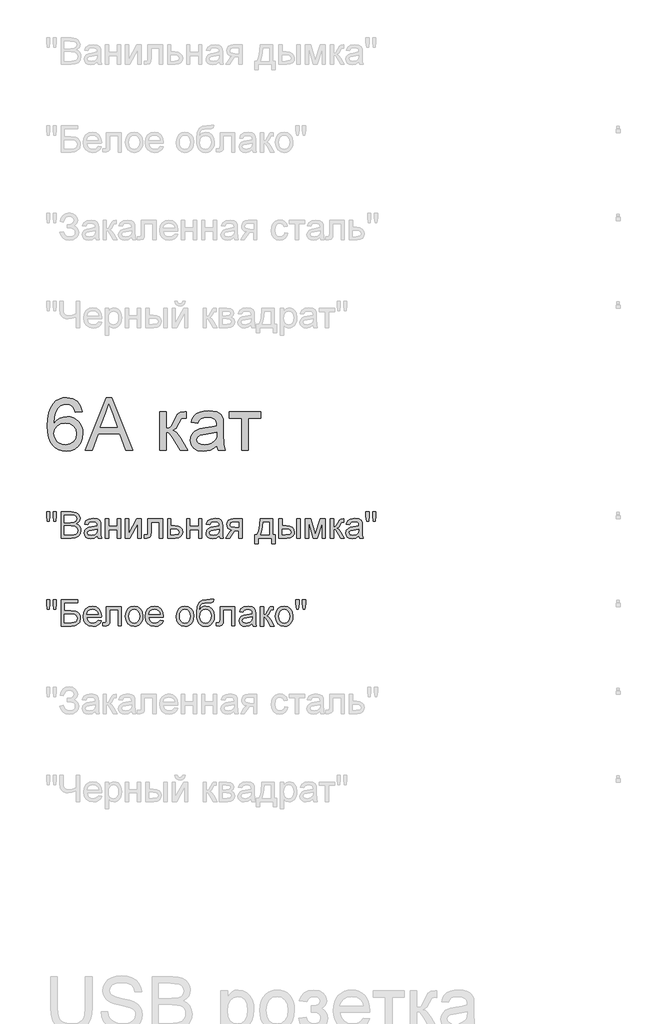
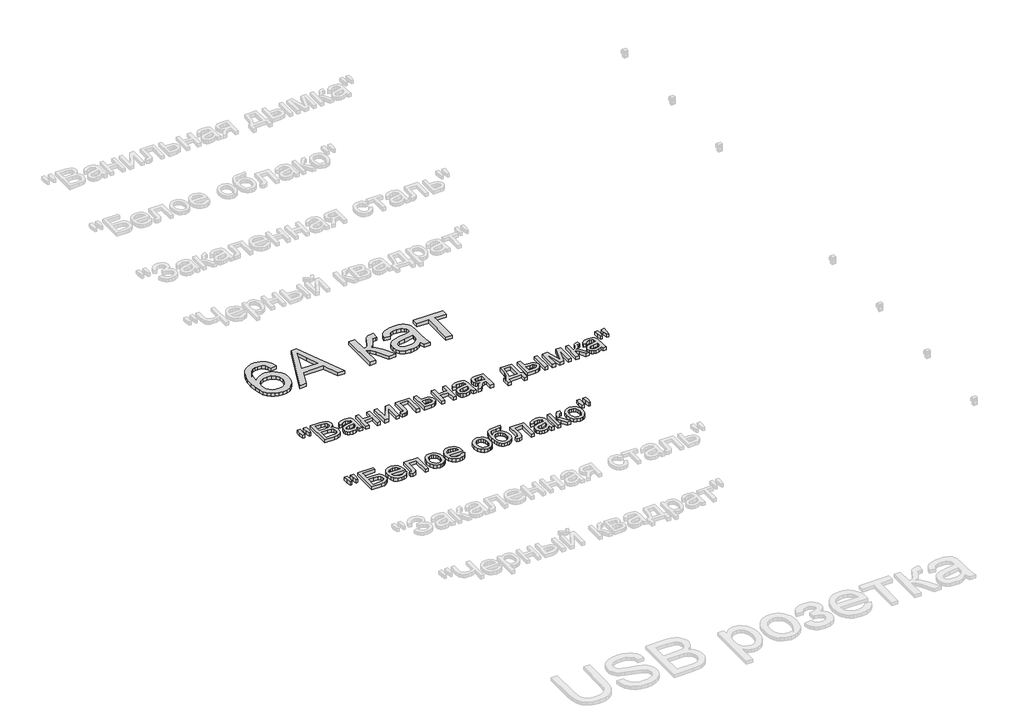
# One storey, part 61 of 168: 3 proxies.
"""IFC4 building model written with IfcOpenShell, lengths in millimetres."""

import ifcopenshell
import ifcopenshell.guid

model = None  # the IFC model being written
_history = None  # IfcOwnerHistory: only IFC2X3 demands one
_inside = {}  # id of a spatial element -> (the spatial element, [elements in it])
_under = {}  # id of a project, library or spatial element -> (it, [spatial elements below it])
_declared = {}  # id of a project -> (the project, [libraries it declares])
_typed = {}  # id of a type object -> (the type object, [elements of that type])
_made_of = {}  # id of a material, layer set ... -> (it, [elements and type objects made of it])


def new_model(schema):
    """Start an empty IFC model of exactly this schema.

    Asked for "IFC4X3", IfcOpenShell would pick the latest addendum, in which some entities
    have other attributes; the version numbers below select the first issue.
    IFC2X3 requires an IfcOwnerHistory on every rooted entity: one is made here for all.
    """
    global model, _history
    if schema == "IFC4X3":
        model = ifcopenshell.file(schema_version=(4, 3, 0, 0))
    else:
        model = ifcopenshell.file(schema=schema)
    _inside.clear()
    _under.clear()
    _declared.clear()
    _typed.clear()
    _made_of.clear()
    _history = None
    if model.schema == "IFC2X3":
        org = make("IfcOrganization", Name="unknown")
        user = make(
            "IfcPersonAndOrganization",
            ThePerson=make("IfcPerson", FamilyName="unknown"),
            TheOrganization=org,
        )
        app = make(
            "IfcApplication",
            ApplicationDeveloper=org,
            Version="unknown",
            ApplicationFullName="unknown",
            ApplicationIdentifier="unknown",
        )
        _history = make(
            "IfcOwnerHistory",
            OwningUser=user,
            OwningApplication=app,
            ChangeAction="ADDED",
            CreationDate=0,
        )
    return model


def make(cls, **values):
    """One entity of the class cls with the attributes given. An attribute that is None is left unset."""
    return model.create_entity(
        cls, **{name: value for name, value in values.items() if value is not None}
    )


def rooted(cls, **values):
    """An entity with a GlobalId (a new one), such as an element, a storey or a relation."""
    return make(cls, GlobalId=ifcopenshell.guid.new(), OwnerHistory=_history, **values)


def si_unit(unit_type, name, prefix=None):
    """IfcSIUnit, for example si_unit("LENGTHUNIT", "METRE", prefix="MILLI")."""
    return make("IfcSIUnit", UnitType=unit_type, Prefix=prefix, Name=name)


def assignment(units):
    """IfcUnitAssignment: the units of a project."""
    return None if units is None else make("IfcUnitAssignment", Units=units)


def point(xyz):
    """IfcCartesianPoint."""
    return None if xyz is None else make("IfcCartesianPoint", Coordinates=xyz)


def direction(xyz):
    """IfcDirection."""
    return None if xyz is None else make("IfcDirection", DirectionRatios=xyz)


def frame(location, z_axis=None, x_axis=None):
    """IfcAxis2Placement3D, a coordinate frame: its origin and axes. An axis left out is left unset."""
    return make(
        "IfcAxis2Placement3D",
        Location=point(location),
        Axis=direction(z_axis),
        RefDirection=direction(x_axis),
    )


def origin():
    """The frame at (0, 0, 0) with its axes left unset."""
    return frame((0.0, 0.0, 0.0))


def origin_with_axes():
    """The frame at (0, 0, 0) with the z axis (0, 0, 1) and the x axis (1, 0, 0) written out."""
    return frame((0.0, 0.0, 0.0), z_axis=(0.0, 0.0, 1.0), x_axis=(1.0, 0.0, 0.0))


def place(relative_to, where):
    """IfcLocalPlacement: puts the frame where relative to a parent placement (None: the world)."""
    return make(
        "IfcLocalPlacement", PlacementRelTo=relative_to, RelativePlacement=where
    )


def context(
    kind, dimensions, precision=None, world=None, true_north=None, identifier=None
):
    """IfcGeometricRepresentationContext, for example the 3D "Model" context."""
    return make(
        "IfcGeometricRepresentationContext",
        ContextIdentifier=identifier,
        ContextType=kind,
        CoordinateSpaceDimension=dimensions,
        Precision=precision,
        WorldCoordinateSystem=world,
        TrueNorth=true_north,
    )


def project(units=None, contexts=None):
    """IfcProject with its units and contexts."""
    return rooted(
        "IfcProject",
        Name="project",
        RepresentationContexts=contexts,
        UnitsInContext=assignment(units),
    )


def spatial(cls, under=None, at=None, **own):
    """A site, building, storey or space (cls), placed at a placement, below another one or the project."""
    s = rooted(cls, ObjectPlacement=at, **own)
    if under is not None:
        _under.setdefault(under.id(), (under, []))[1].append(s)
    return s


def polyline(points):
    """IfcPolyline through the points."""
    return make("IfcPolyline", Points=[point(p) for p in points])


def outline(outer, holes=None, kind="AREA"):
    """IfcArbitraryClosedProfileDef: a profile drawn as a closed curve; with holes, ...WithVoids."""
    if holes is None:
        return make("IfcArbitraryClosedProfileDef", ProfileType=kind, OuterCurve=outer)
    return make(
        "IfcArbitraryProfileDefWithVoids",
        ProfileType=kind,
        OuterCurve=outer,
        InnerCurves=holes,
    )


def extrude(swept, where, along, depth):
    """IfcExtrudedAreaSolid: the profile swept, set in the frame where, extruded along a direction by depth."""
    return make(
        "IfcExtrudedAreaSolid",
        SweptArea=swept,
        Position=where,
        ExtrudedDirection=direction(along),
        Depth=depth,
    )


def shape(context_of_items, identifier, shape_type, items):
    """IfcShapeRepresentation: the items that make up one representation, for example the "Body"."""
    return make(
        "IfcShapeRepresentation",
        ContextOfItems=context_of_items,
        RepresentationIdentifier=identifier,
        RepresentationType=shape_type,
        Items=items,
    )


def made_of(thing, what):
    """Note that an element or type object is made of a material, layer set ...; save() writes the relation."""
    if what is not None:
        _made_of.setdefault(what.id(), (what, []))[1].append(thing)
    return thing


def element(
    cls,
    number,
    at=None,
    inside=None,
    cuts=None,
    type_object=None,
    material=None,
    context=None,
    identifier="Body",
    shape_type=None,
    held_by="IfcProductDefinitionShape",
    body=None,
    shapes=None,
    **own,
):
    """One element of the class cls, such as IfcWall. Its Tag is "e" and its number.

    at: its placement. inside: the storey or other place that contains it. cuts: it is an
    opening in that element (IfcRelVoidsElement). A single representation is given by context,
    identifier, shape_type and body (its items); several are given by shapes. held_by: the class
    of the entity that holds the representations. save() writes the other relations.
    """
    e = rooted(cls, Tag="e%d" % number, ObjectPlacement=at, **own)
    if body is not None:
        shapes = [shape(context, identifier, shape_type, body)]
    if shapes is not None:
        e.Representation = make(held_by, Representations=shapes)
    if inside is not None:
        _inside.setdefault(inside.id(), (inside, []))[1].append(e)
    if cuts is not None:
        rooted(
            "IfcRelVoidsElement", RelatingBuildingElement=cuts, RelatedOpeningElement=e
        )
    if type_object is not None:
        _typed.setdefault(type_object.id(), (type_object, []))[1].append(e)
    return made_of(e, material)


def aggregate(whole, parts):
    """IfcRelAggregates: a whole, such as a stair, and the parts it consists of."""
    return rooted("IfcRelAggregates", RelatingObject=whole, RelatedObjects=parts)


def save(model, path):
    """Write the relations noted so far, then the file.

    IfcRelAggregates (storeys below a building ...), IfcRelContainedInSpatialStructure (elements
    in a storey), IfcRelDefinesByType, IfcRelAssociatesMaterial and IfcRelDeclares: one each for
    every whole, place, type object, material and project.
    """
    for whole, parts in _under.values():
        aggregate(whole, parts)
    for where, things in _inside.values():
        rooted(
            "IfcRelContainedInSpatialStructure",
            RelatedElements=things,
            RelatingStructure=where,
        )
    for kind, things in _typed.values():
        rooted("IfcRelDefinesByType", RelatedObjects=things, RelatingType=kind)
    for what, things in _made_of.values():
        rooted("IfcRelAssociatesMaterial", RelatedObjects=things, RelatingMaterial=what)
    for by, libraries in _declared.values():
        rooted("IfcRelDeclares", RelatingContext=by, RelatedDefinitions=libraries)
    model.write(path)


model = new_model("IFC4")

# Units and contexts
model_context = context("Model", 3, world=origin())
ifc_project = project(units=[si_unit("LENGTHUNIT", "METRE", prefix="MILLI")], contexts=[model_context])

# Site, building, storey
site = spatial("IfcSite", under=ifc_project)
building = spatial("IfcBuilding", under=site)
storey = spatial("IfcBuildingStorey", under=building, Name="Этаж 01", Elevation=0.0)

# Proxies
placement = place(None, origin())
element("IfcBuildingElementProxy", 1, Name="300 мм Arial 2", ObjectType="300 мм Arial 2", at=placement, inside=storey, context=model_context, shape_type="SweptSolid", body=[
    extrude(outline(polyline([(60378.0323041, -42545.5444894), (60340.3611878, -42550.253379), (60334.2911349, -42531.5833677), (60326.0873664, -42518.8362566), (60308.9992477, -42507.0824268), (60288.3426737, -42503.1644836), (60270.8314907, -42505.445352), (60254.3503773, -42512.2879571), (60240.1961176, -42526.6997342), (60228.6354259, -42546.5377708), (60220.8271305, -42574.59797), (60217.9300598, -42613.6762349), (60233.0408128, -42596.0454903), (60251.149804, -42583.6202759), (60271.245358, -42576.253439), (60292.3157992, -42573.7978267), (60310.4155934, -42575.4762883), (60327.117436, -42580.5116731), (60342.421327, -42588.9039811), (60356.3272664, -42600.6532123), (60367.8833596, -42615.0603909), (60376.1377118, -42631.4265412), (60381.0903232, -42649.7516631), (60382.7411936, -42670.0357566), (60379.6325908, -42697.0107039), (60370.3067822, -42722.0174825), (60355.5363201, -42743.2258795), (60336.0937567, -42758.805682), (60312.8620087, -42768.379811), (60286.7239929, -42771.5711873), (60264.2670964, -42769.4558658), (60243.9853021, -42763.1099014), (60225.8786102, -42752.533294), (60209.9470205, -42737.7260437), (60196.9584868, -42718.0627511), (60187.6809628, -42692.9180167), (60182.1144483, -42662.2918406), (60180.2589435, -42626.1842228), (60182.3190827, -42585.7034077), (60188.4995002, -42551.1546899), (60198.8001961, -42522.5380692), (60213.2211703, -42499.8535456), (60228.8515565, -42484.8209676), (60246.9743433, -42474.0834119), (60267.5895306, -42467.6408784), (60290.6971185, -42465.4933673), (60323.7513157, -42470.8092621), (60350.2204253, -42486.7569466), (60368.7616778, -42512.085622), (60378.0323041, -42545.5444894)]), holes=[polyline([(60217.9300598, -42669.4471454), (60220.1097606, -42686.1397909), (60226.6488631, -42702.0782784), (60236.8024062, -42715.7818827), (60249.8254288, -42725.7698789), (60265.543187, -42731.8675229), (60283.7809369, -42733.900071), (60308.6405628, -42729.6878221), (60328.1842938, -42717.0510756), (60340.8486314, -42697.1854478), (60345.0700773, -42671.2865554), (60340.9038137, -42646.4269296), (60328.405023, -42627.4718098), (60308.5301982, -42615.4696597), (60282.2358326, -42611.468943), (60257.4129949, -42615.4696597), (60236.6552534, -42627.4718098), (60222.6113582, -42645.9670771), (60217.9300598, -42669.4471454)])]), origin_with_axes(), (0.0, 0.0, 1.0), 20.0),
    extrude(outline(polyline([(60394.7341467, -42766.8622977), (60515.0315591, -42465.4933673), (60547.1108691, -42465.4933673), (60667.4082815, -42766.8622977), (60627.6034496, -42766.8622977), (60593.0961185, -42672.684507), (60468.9727333, -42672.684507), (60434.5389786, -42766.8622977), (60394.7341467, -42766.8622977)]), holes=[polyline([(60482.8050963, -42635.0133907), (60579.3373319, -42635.0133907), (60552.1876406, -42560.9219568), (60531.0712141, -42503.1644836), (60512.3092324, -42554.4472337), (60482.8050963, -42635.0133907)])]), origin_with_axes(), (0.0, 0.0, 1.0), 20.0),
    extrude(outline(polyline([(60820.6679207, -42545.5444894), (60858.339037, -42545.5444894), (60858.339037, -42639.7222802), (60873.6613221, -42638.030023), (60883.5757419, -42632.9532515), (60892.3497275, -42619.7094997), (60904.25071, -42593.5163016), (60921.4307992, -42559.4872171), (60936.5875374, -42548.413969), (60964.1418988, -42545.5444894), (60971.3523859, -42545.5444894), (60971.3523859, -42583.4363349), (60961.1988429, -42583.2156057), (60942.8047431, -42587.1887313), (60929.8552969, -42611.9839778), (60914.6617705, -42638.8025752), (60893.361403, -42651.9359624), (60905.2991737, -42657.2380617), (60917.1265798, -42666.5960599), (60940.4502983, -42697.4797534), (60980.770165, -42766.8622977), (60937.9487008, -42766.8622977), (60898.4381745, -42698.9512814), (60878.5725467, -42670.2196976), (60869.2835264, -42665.0049703), (60858.339037, -42663.2667279), (60858.339037, -42766.8622977), (60820.6679207, -42766.8622977), (60820.6679207, -42545.5444894)])), origin_with_axes(), (0.0, 0.0, 1.0), 20.0),
    extrude(outline(polyline([(61145.5812988, -42738.6089605), (61127.5826722, -42754.0416102), (61109.0506167, -42764.139971), (61089.562068, -42769.7133832), (61068.6939619, -42771.5711873), (61037.2124601, -42767.101421), (61013.9899092, -42753.6921223), (60999.6701025, -42733.3298539), (60994.8968336, -42708.0011785), (60996.6994554, -42692.3845878), (61002.1073207, -42678.2027369), (61010.449045, -42666.0626311), (61021.0532435, -42656.5712756), (61047.4303825, -42644.2104405), (61080.0247273, -42638.5450578), (61118.5419722, -42632.5853695), (61145.3605697, -42625.5956116), (61145.5812988, -42617.2079021), (61142.9877308, -42600.3956949), (61135.2070266, -42589.3960233), (61117.8062082, -42581.229043), (61093.5627847, -42578.5067162), (61071.121983, -42580.318535), (61055.45021, -42585.7539915), (61044.7632381, -42595.806367), (61037.2768395, -42611.468943), (60999.6057232, -42606.7600534), (61006.1448256, -42586.1586617), (61015.9028955, -42569.9718539), (61029.7904409, -42557.5926248), (61048.7179695, -42548.413969), (61071.8669441, -42542.7301922), (61098.4188271, -42540.8355999), (61123.8854582, -42542.509463), (61144.0729827, -42547.5310522), (61159.2941002, -42555.0818302), (61169.8615105, -42564.3432594), (61176.8696625, -42575.7935865), (61181.4130052, -42589.9110581), (61183.2524152, -42622.8732848), (61183.2524152, -42669.741451), (61185.1654015, -42735.1876579), (61192.6701942, -42766.8622977), (61154.9990779, -42766.8622977), (61145.5812988, -42738.6089605)]), holes=[polyline([(61145.5812988, -42663.2667279), (61084.8071932, -42674.8182225), (61052.3967895, -42680.9250637), (61037.7182979, -42690.8578775), (61032.5679499, -42705.3524281), (61035.3730501, -42716.5544349), (61043.7883508, -42725.7330907), (61057.6299109, -42731.8583259), (61076.7137894, -42733.900071), (61096.9472991, -42731.6467937), (61114.8263641, -42724.8869621), (61129.3209147, -42714.9265571), (61139.4008813, -42703.0715598), (61143.8706476, -42690.8578775), (61145.3605697, -42673.9353058), (61145.5812988, -42663.2667279)])]), origin_with_axes(), (0.0, 0.0, 1.0), 20.0),
    extrude(outline(polyline([(61216.2146419, -42545.5444894), (61395.1524444, -42545.5444894), (61395.1524444, -42583.2156057), (61324.5191013, -42583.2156057), (61324.5191013, -42766.8622977), (61286.847985, -42766.8622977), (61286.847985, -42583.2156057), (61216.2146419, -42583.2156057), (61216.2146419, -42545.5444894)])), origin_with_axes(), (0.0, 0.0, 1.0), 20.0),
])
element("IfcBuildingElementProxy", 2, Name="150", ObjectType="150", at=placement, inside=storey, context=model_context, shape_type="SweptSolid", body=[
    extrude(outline(polyline([(60180.1485789, -43170.3300622), (60175.550054, -43141.2305964), (60175.550054, -43116.1778325), (60194.3856121, -43116.1778325), (60194.3856121, -43141.2305964), (60190.2653338, -43170.3300622), (60180.1485789, -43170.3300622)])), origin_with_axes(), (0.0, 0.0, 1.0), 20.0),
    extrude(outline(polyline([(60217.7093306, -43170.3300622), (60213.2211703, -43141.2305964), (60213.2211703, -43116.1778325), (60232.0567284, -43116.1778325), (60232.0567284, -43141.2305964), (60227.6421445, -43170.3300622), (60217.7093306, -43170.3300622)])), origin_with_axes(), (0.0, 0.0, 1.0), 20.0),
    extrude(outline(polyline([(60257.9556209, -43266.8622977), (60257.9556209, -43116.1778325), (60315.4555767, -43116.1778325), (60343.6169435, -43120.6108106), (60353.0807078, -43126.2348066), (60360.2452096, -43134.2408385), (60366.2600803, -43153.517855), (60361.2017028, -43171.1210085), (60345.9162059, -43184.4567308), (60356.5893823, -43190.030143), (60364.4758526, -43198.509823), (60369.3456905, -43209.3347507), (60370.9689698, -43221.9439061), (60366.5359918, -43242.19581), (60355.5547142, -43256.6167842), (60339.1655713, -43264.2687297), (60315.0141183, -43266.8622977), (60257.9556209, -43266.8622977)]), holes=[polyline([(60276.791179, -43177.3933965), (60311.1881456, -43177.3933965), (60331.2745025, -43175.7747157), (60343.3594261, -43168.8033519), (60347.4245221, -43156.5344874), (60343.6353376, -43144.2472287), (60332.7828187, -43136.9815593), (60308.5761834, -43135.0133907), (60276.791179, -43135.0133907), (60276.791179, -43177.3933965)]), polyline([(60276.791179, -43248.0267396), (60315.4187885, -43248.0267396), (60329.3983043, -43247.2909756), (60341.2257105, -43243.1890913), (60349.061597, -43234.819776), (60352.1334117, -43222.1278471), (60348.5281681, -43207.4861437), (60336.8479148, -43198.7489463), (60313.5793786, -43196.2289547), (60276.791179, -43196.2289547), (60276.791179, -43248.0267396)])]), origin_with_axes(), (0.0, 0.0, 1.0), 20.0),
    extrude(outline(polyline([(60465.1467606, -43252.7356291), (60446.8814195, -43265.5011344), (60426.7030921, -43269.2167425), (60410.9623412, -43266.9818594), (60399.3510657, -43260.27721), (60392.1911624, -43250.0960758), (60389.804528, -43237.4317381), (60393.4097715, -43222.5325173), (60402.8827329, -43211.7167867), (60416.0713024, -43205.5363691), (60432.3684748, -43202.7036778), (60465.036396, -43196.2289547), (60465.1467606, -43192.0350999), (60463.8499765, -43183.6289963), (60459.9596244, -43178.1291605), (60451.2592153, -43174.0456704), (60439.1375035, -43172.684507), (60420.0812162, -43176.3081446), (60410.9945309, -43189.1656204), (60392.1589727, -43186.8111756), (60400.3075589, -43168.4170758), (60416.7150959, -43157.6381334), (60441.5655247, -43153.8489488), (60464.3926025, -43157.196675), (60477.2868664, -43165.6027786), (60483.0626137, -43178.3866779), (60483.9823187, -43194.8677913), (60483.9823187, -43218.3018744), (60484.9388119, -43251.0249778), (60488.6912083, -43266.8622977), (60469.8556501, -43266.8622977), (60465.1467606, -43252.7356291)]), holes=[polyline([(60465.1467606, -43215.0645128), (60434.7597078, -43220.8402601), (60418.5545059, -43223.8936807), (60411.2152601, -43228.8600876), (60408.6400861, -43236.1073629), (60414.2502865, -43246.2976942), (60430.7130058, -43250.3811843), (60449.7692932, -43245.8746299), (60462.0565518, -43234.9669288), (60465.036396, -43220.3988017), (60465.1467606, -43215.0645128)])]), origin_with_axes(), (0.0, 0.0, 1.0), 20.0),
    extrude(outline(polyline([(60509.8812112, -43156.2033936), (60528.7167693, -43156.2033936), (60528.7167693, -43198.5833994), (60578.1601095, -43198.5833994), (60578.1601095, -43156.2033936), (60596.9956676, -43156.2033936), (60596.9956676, -43266.8622977), (60578.1601095, -43266.8622977), (60578.1601095, -43217.4189576), (60528.7167693, -43217.4189576), (60528.7167693, -43266.8622977), (60509.8812112, -43266.8622977), (60509.8812112, -43156.2033936)])), origin_with_axes(), (0.0, 0.0, 1.0), 20.0),
    extrude(outline(polyline([(60625.2490049, -43156.2033936), (60644.084563, -43156.2033936), (60644.084563, -43240.5955233), (60690.364118, -43156.2033936), (60714.7179061, -43156.2033936), (60714.7179061, -43266.8622977), (60695.8823479, -43266.8622977), (60695.8823479, -43182.9852028), (60649.8970985, -43266.8622977), (60625.2490049, -43266.8622977), (60625.2490049, -43156.2033936)])), origin_with_axes(), (0.0, 0.0, 1.0), 20.0),
    extrude(outline(polyline([(60752.3890224, -43156.2033936), (60837.1490341, -43156.2033936), (60837.1490341, -43266.7519331), (60818.3134759, -43266.7519331), (60818.3134759, -43175.0389517), (60771.2245806, -43175.0389517), (60771.2245806, -43227.830018), (60769.9553877, -43252.1838061), (60762.9840239, -43262.4661079), (60746.5029105, -43266.8622977), (60731.1990195, -43265.9058045), (60731.1990195, -43248.0267396), (60739.6235172, -43248.0267396), (60748.1399854, -43246.8679113), (60751.5428938, -43243.1890913), (60752.3890224, -43226.7631603), (60752.3890224, -43156.2033936)])), origin_with_axes(), (0.0, 0.0, 1.0), 20.0),
    extrude(outline(polyline([(60865.4023713, -43156.2033936), (60884.2379295, -43156.2033936), (60884.2379295, -43196.2289547), (60905.9429672, -43196.2289547), (60924.7601312, -43198.587998), (60938.6844648, -43205.6651278), (60947.2929034, -43216.8901272), (60950.162383, -43231.692779), (60947.7205663, -43245.1710556), (60940.395116, -43256.5432078), (60927.6985887, -43264.2825252), (60909.1435405, -43266.8622977), (60865.4023713, -43266.8622977), (60865.4023713, -43156.2033936)]), holes=[polyline([(60884.2379295, -43248.0267396), (60901.8226888, -43248.0267396), (60924.539402, -43244.0720081), (60929.6299692, -43239.0090322), (60931.3268249, -43231.7295672), (60926.3052356, -43220.1412843), (60918.2348244, -43216.3337057), (60904.066769, -43215.0645128), (60884.2379295, -43215.0645128), (60884.2379295, -43248.0267396)])]), origin_with_axes(), (0.0, 0.0, 1.0), 20.0),
    extrude(outline(polyline([(60973.7068307, -43156.2033936), (60992.5423889, -43156.2033936), (60992.5423889, -43198.5833994), (61041.985729, -43198.5833994), (61041.985729, -43156.2033936), (61060.8212872, -43156.2033936), (61060.8212872, -43266.8622977), (61041.985729, -43266.8622977), (61041.985729, -43217.4189576), (60992.5423889, -43217.4189576), (60992.5423889, -43266.8622977), (60973.7068307, -43266.8622977), (60973.7068307, -43156.2033936)])), origin_with_axes(), (0.0, 0.0, 1.0), 20.0),
    extrude(outline(polyline([(61159.7079675, -43252.7356291), (61141.4426264, -43265.5011344), (61121.264299, -43269.2167425), (61105.5235481, -43266.9818594), (61093.9122726, -43260.27721), (61086.7523693, -43250.0960758), (61084.3657349, -43237.4317381), (61087.9709784, -43222.5325173), (61097.4439398, -43211.7167867), (61110.6325093, -43205.5363691), (61126.9296817, -43202.7036778), (61159.5976029, -43196.2289547), (61159.7079675, -43192.0350999), (61158.4111834, -43183.6289963), (61154.5208313, -43178.1291605), (61145.8204221, -43174.0456704), (61133.6987104, -43172.684507), (61114.6424231, -43176.3081446), (61105.5557378, -43189.1656204), (61086.7201796, -43186.8111756), (61094.8687658, -43168.4170758), (61111.2763028, -43157.6381334), (61136.1267316, -43153.8489488), (61158.9538094, -43157.196675), (61171.8480733, -43165.6027786), (61177.6238206, -43178.3866779), (61178.5435256, -43194.8677913), (61178.5435256, -43218.3018744), (61179.5000188, -43251.0249778), (61183.2524152, -43266.8622977), (61164.416857, -43266.8622977), (61159.7079675, -43252.7356291)]), holes=[polyline([(61159.7079675, -43215.0645128), (61129.3209147, -43220.8402601), (61113.1157128, -43223.8936807), (61105.776467, -43228.8600876), (61103.201293, -43236.1073629), (61108.8114934, -43246.2976942), (61125.2742127, -43250.3811843), (61144.3305001, -43245.8746299), (61156.6177587, -43234.9669288), (61159.5976029, -43220.3988017), (61159.7079675, -43215.0645128)])]), origin_with_axes(), (0.0, 0.0, 1.0), 20.0),
    extrude(outline(polyline([(61289.2024298, -43156.2033936), (61289.2024298, -43266.8622977), (61270.3668716, -43266.8622977), (61270.3668716, -43224.4822919), (61260.1029639, -43224.4822919), (61246.1234481, -43226.8735249), (61232.9900609, -43242.949968), (61217.9804755, -43266.8622977), (61196.2018614, -43266.8622977), (61215.1109959, -43236.6223977), (61223.4619172, -43225.7698789), (61231.1506509, -43220.9506247), (61218.2747811, -43217.0050903), (61209.224884, -43209.5094947), (61203.872201, -43199.5398926), (61202.0879733, -43188.172339), (61204.5251915, -43175.278075), (61211.8368462, -43165.0693497), (61223.7654199, -43158.4198826), (61240.0533952, -43156.2033936), (61289.2024298, -43156.2033936)]), holes=[polyline([(61270.3668716, -43175.0389517), (61245.5348369, -43175.0389517), (61232.7095509, -43176.1288021), (61225.4300859, -43179.3983534), (61220.9235315, -43189.6070787), (61222.583599, -43196.7853762), (61227.5638015, -43201.7655787), (61251.0898551, -43205.6467337), (61270.3668716, -43205.6467337), (61270.3668716, -43175.0389517)])]), origin_with_axes(), (0.0, 0.0, 1.0), 20.0),
    extrude(outline(polyline([(61392.7979996, -43156.2033936), (61463.4313427, -43156.2033936), (61463.4313427, -43248.0267396), (61477.5580113, -43248.0267396), (61477.5580113, -43297.4700797), (61458.7224531, -43297.4700797), (61458.7224531, -43266.8622977), (61381.0257758, -43266.8622977), (61381.0257758, -43297.4700797), (61362.1902176, -43297.4700797), (61362.1902176, -43248.0267396), (61373.9624415, -43248.0267396), (61382.5202964, -43232.5619002), (61388.5121744, -43212.1030628), (61392.7979996, -43156.2033936)]), holes=[polyline([(61409.279113, -43175.0389517), (61404.864529, -43217.9523865), (61395.1524444, -43248.0267396), (61444.5957845, -43248.0267396), (61444.5957845, -43175.0389517), (61409.279113, -43175.0389517)])]), origin_with_axes(), (0.0, 0.0, 1.0), 20.0),
    extrude(outline(polyline([(61602.3435841, -43156.2033936), (61621.1791422, -43156.2033936), (61621.1791422, -43266.8622977), (61602.3435841, -43266.8622977), (61602.3435841, -43156.2033936)])), origin_with_axes(), (0.0, 0.0, 1.0), 20.0),
    extrude(outline(polyline([(61498.7480142, -43156.2033936), (61517.5835724, -43156.2033936), (61517.5835724, -43196.2289547), (61540.8705027, -43196.2289547), (61560.9982463, -43198.587998), (61575.9112627, -43205.6651278), (61585.1405023, -43216.8901272), (61588.2169154, -43231.692779), (61585.637143, -43245.1710556), (61577.8978255, -43256.5432078), (61564.4931253, -43264.2825252), (61544.9172046, -43266.8622977), (61498.7480142, -43266.8622977), (61498.7480142, -43156.2033936)]), holes=[polyline([(61517.5835724, -43248.0267396), (61536.9341653, -43248.0267396), (61561.9133528, -43244.0720081), (61567.5143562, -43239.0090322), (61569.3813573, -43231.7295672), (61563.8447333, -43220.1412843), (61554.9649816, -43216.3337057), (61539.3989747, -43215.0645128), (61517.5835724, -43215.0645128), (61517.5835724, -43248.0267396)])]), origin_with_axes(), (0.0, 0.0, 1.0), 20.0),
    extrude(outline(polyline([(61649.4324794, -43156.2033936), (61681.8428832, -43156.2033936), (61706.8220707, -43244.789378), (61733.7510327, -43156.2033936), (61764.8002731, -43156.2033936), (61764.8002731, -43266.8622977), (61745.964715, -43266.8622977), (61745.964715, -43177.7612785), (61718.8886001, -43266.8622977), (61694.1669301, -43266.8622977), (61668.2680376, -43173.4938474), (61668.2680376, -43266.8622977), (61649.4324794, -43266.8622977), (61649.4324794, -43156.2033936)])), origin_with_axes(), (0.0, 0.0, 1.0), 20.0),
    extrude(outline(polyline([(61793.0536104, -43156.2033936), (61811.8891685, -43156.2033936), (61811.8891685, -43203.292289), (61824.5075209, -43199.9077746), (61834.845005, -43180.1892997), (61843.4350496, -43163.1747574), (61851.0134187, -43157.6381334), (61864.7905994, -43156.2033936), (61868.395843, -43156.2033936), (61868.395843, -43175.1493163), (61863.3190714, -43175.0389517), (61854.1220216, -43177.0255145), (61847.6472984, -43189.4231377), (61840.0505352, -43202.8324365), (61829.4003515, -43209.3991301), (61841.2829399, -43216.7291788), (61852.9447992, -43232.1710256), (61873.1047325, -43266.8622977), (61851.6940004, -43266.8622977), (61831.9387372, -43232.9067896), (61822.0059234, -43218.5409977), (61811.8891685, -43215.0645128), (61811.8891685, -43266.8622977), (61793.0536104, -43266.8622977), (61793.0536104, -43156.2033936)])), origin_with_axes(), (0.0, 0.0, 1.0), 20.0),
    extrude(outline(polyline([(61955.5102994, -43252.7356291), (61937.2449584, -43265.5011344), (61917.0666309, -43269.2167425), (61901.3258801, -43266.9818594), (61889.7146046, -43260.27721), (61882.5547013, -43250.0960758), (61880.1680668, -43237.4317381), (61883.7733104, -43222.5325173), (61893.2462717, -43211.7167867), (61906.4348413, -43205.5363691), (61922.7320137, -43202.7036778), (61955.3999348, -43196.2289547), (61955.5102994, -43192.0350999), (61954.2135154, -43183.6289963), (61950.3231633, -43178.1291605), (61941.6227541, -43174.0456704), (61929.5010424, -43172.684507), (61910.444755, -43176.3081446), (61901.3580697, -43189.1656204), (61882.5225116, -43186.8111756), (61890.6710978, -43168.4170758), (61907.0786348, -43157.6381334), (61931.9290635, -43153.8489488), (61954.7561413, -43157.196675), (61967.6504053, -43165.6027786), (61973.4261526, -43178.3866779), (61974.3458576, -43194.8677913), (61974.3458576, -43218.3018744), (61975.3023508, -43251.0249778), (61979.0547471, -43266.8622977), (61960.219189, -43266.8622977), (61955.5102994, -43252.7356291)]), holes=[polyline([(61955.5102994, -43215.0645128), (61925.1232466, -43220.8402601), (61908.9180447, -43223.8936807), (61901.5787989, -43228.8600876), (61899.003625, -43236.1073629), (61904.6138254, -43246.2976942), (61921.0765447, -43250.3811843), (61940.132832, -43245.8746299), (61952.4200907, -43234.9669288), (61955.3999348, -43220.3988017), (61955.5102994, -43215.0645128)])]), origin_with_axes(), (0.0, 0.0, 1.0), 20.0),
    extrude(outline(polyline([(62000.1343854, -43170.3300622), (61995.5358605, -43141.2305964), (61995.5358605, -43116.1778325), (62014.3714187, -43116.1778325), (62014.3714187, -43141.2305964), (62010.2511403, -43170.3300622), (62000.1343854, -43170.3300622)])), origin_with_axes(), (0.0, 0.0, 1.0), 20.0),
    extrude(outline(polyline([(62037.6951372, -43170.3300622), (62033.2069768, -43141.2305964), (62033.2069768, -43116.1778325), (62052.042535, -43116.1778325), (62052.042535, -43141.2305964), (62047.627951, -43170.3300622), (62037.6951372, -43170.3300622)])), origin_with_axes(), (0.0, 0.0, 1.0), 20.0),
])
element("IfcBuildingElementProxy", 3, Name="150", ObjectType="150", at=placement, inside=storey, context=model_context, shape_type="SweptSolid", body=[
    extrude(outline(polyline([(60180.1485789, -43670.3300622), (60175.550054, -43641.2305964), (60175.550054, -43616.1778325), (60194.3856121, -43616.1778325), (60194.3856121, -43641.2305964), (60190.2653338, -43670.3300622), (60180.1485789, -43670.3300622)])), origin_with_axes(), (0.0, 0.0, 1.0), 20.0),
    extrude(outline(polyline([(60217.7093306, -43670.3300622), (60213.2211703, -43641.2305964), (60213.2211703, -43616.1778325), (60232.0567284, -43616.1778325), (60232.0567284, -43641.2305964), (60227.6421445, -43670.3300622), (60217.7093306, -43670.3300622)])), origin_with_axes(), (0.0, 0.0, 1.0), 20.0),
    extrude(outline(polyline([(60257.9556209, -43616.1778325), (60352.1334117, -43616.1778325), (60352.1334117, -43635.0133907), (60276.791179, -43635.0133907), (60276.791179, -43679.7478413), (60312.0710624, -43679.7478413), (60343.157091, -43683.573814), (60353.5589544, -43689.101241), (60361.6615553, -43698.0315764), (60366.8762826, -43709.5278888), (60368.614525, -43722.7532465), (60363.6665122, -43744.2191609), (60348.8960501, -43760.5347274), (60335.6247071, -43765.2804052), (60315.4555767, -43766.8622977), (60257.9556209, -43766.8622977), (60257.9556209, -43616.1778325)]), holes=[polyline([(60276.791179, -43748.0267396), (60317.1478339, -43748.0267396), (60331.4124583, -43746.4724382), (60341.6119866, -43741.8095339), (60347.7372218, -43734.0380267), (60349.7789669, -43723.1579167), (60345.1068655, -43708.4058487), (60332.102237, -43700.533174), (60303.7201411, -43698.5833994), (60276.791179, -43698.5833994), (60276.791179, -43748.0267396)])]), origin_with_axes(), (0.0, 0.0, 1.0), 20.0),
    extrude(outline(polyline([(60469.6349209, -43733.900071), (60488.1025971, -43736.2545157), (60481.4485315, -43750.1696522), (60470.8305374, -43760.5715156), (60456.4877381, -43767.0554358), (60438.6592569, -43769.2167425), (60416.5587461, -43765.4873388), (60399.5534008, -43754.2991276), (60388.710079, -43736.3786759), (60385.0956384, -43712.4525506), (60388.7468672, -43687.7216835), (60399.7005536, -43669.2264162), (60416.4759726, -43657.6933157), (60437.5923991, -43653.8489488), (60458.0512366, -43657.6841186), (60474.3989927, -43669.189628), (60485.1181544, -43687.6481071), (60488.6912083, -43712.342186), (60488.5808437, -43717.4189576), (60403.9311966, -43717.4189576), (60407.1915508, -43731.518035), (60414.7653213, -43741.8831103), (60425.6960151, -43748.2566658), (60439.0271389, -43750.3811843), (60457.4948151, -43746.444847), (60469.6349209, -43733.900071)]), holes=[polyline([(60403.9311966, -43698.5833994), (60469.8556501, -43698.5833994), (60467.3080673, -43688.6321915), (60462.3140692, -43681.5136749), (60451.3327917, -43674.8917989), (60437.5188227, -43672.684507), (60424.8222954, -43674.445742), (60414.3238629, -43679.7294472), (60407.0260039, -43687.9654053), (60403.9311966, -43698.5833994)])]), origin_with_axes(), (0.0, 0.0, 1.0), 20.0),
    extrude(outline(polyline([(60516.9445455, -43656.2033936), (60601.7045572, -43656.2033936), (60601.7045572, -43766.7519331), (60582.868999, -43766.7519331), (60582.868999, -43675.0389517), (60535.7801036, -43675.0389517), (60535.7801036, -43727.830018), (60534.5109108, -43752.1838061), (60527.539547, -43762.4661079), (60511.0584336, -43766.8622977), (60495.7545426, -43765.9058045), (60495.7545426, -43748.0267396), (60504.1790403, -43748.0267396), (60512.6955084, -43746.8679113), (60516.0984169, -43743.1890913), (60516.9445455, -43726.7631603), (60516.9445455, -43656.2033936)])), origin_with_axes(), (0.0, 0.0, 1.0), 20.0),
    extrude(outline(polyline([(60625.2490049, -43711.5328457), (60629.323298, -43684.852204), (60641.5461773, -43666.0994193), (60656.6477332, -43656.9115664), (60674.7291332, -43653.8489488), (60694.516586, -43657.5783525), (60710.3217163, -43668.7665637), (60720.6821929, -43686.5306656), (60724.1356852, -43709.9877413), (60722.6089749, -43729.0164375), (60718.0288441, -43743.501791), (60710.5286499, -43754.3497114), (60700.2417496, -43762.4661079), (60688.0234688, -43767.5290839), (60674.7291332, -43769.2167425), (60654.7025571, -43765.5011344), (60638.915821, -43754.3543099), (60628.6657089, -43736.2177275), (60625.2490049, -43711.5328457)]), holes=[polyline([(60644.084563, -43711.4960575), (60646.2642638, -43728.5427894), (60652.8033663, -43740.6874938), (60662.6442097, -43747.9577617), (60674.7291332, -43750.3811843), (60686.7588745, -43747.9439661), (60696.5813237, -43740.6323115), (60703.1204262, -43728.3266587), (60705.300127, -43710.9074463), (60703.1066306, -43694.357355), (60696.5261414, -43682.3781975), (60686.6898966, -43675.1079296), (60674.7291332, -43672.684507), (60662.6442097, -43675.0987326), (60652.8033663, -43682.3414093), (60646.2642638, -43694.4585226), (60644.084563, -43711.4960575)])]), origin_with_axes(), (0.0, 0.0, 1.0), 20.0),
    extrude(outline(polyline([(60822.8016363, -43733.900071), (60841.2693124, -43736.2545157), (60834.6152469, -43750.1696522), (60823.9972528, -43760.5715156), (60809.6544535, -43767.0554358), (60791.8259723, -43769.2167425), (60769.7254614, -43765.4873388), (60752.7201162, -43754.2991276), (60741.8767944, -43736.3786759), (60738.2623538, -43712.4525506), (60741.9135826, -43687.7216835), (60752.867269, -43669.2264162), (60769.642688, -43657.6933157), (60790.7591145, -43653.8489488), (60811.217952, -43657.6841186), (60827.5657081, -43669.189628), (60838.2848698, -43687.6481071), (60841.8579236, -43712.342186), (60841.747559, -43717.4189576), (60757.0979119, -43717.4189576), (60760.3582661, -43731.518035), (60767.9320367, -43741.8831103), (60778.8627305, -43748.2566658), (60792.1938543, -43750.3811843), (60810.6615304, -43746.444847), (60822.8016363, -43733.900071)]), holes=[polyline([(60757.0979119, -43698.5833994), (60823.0223655, -43698.5833994), (60820.4747827, -43688.6321915), (60815.4807846, -43681.5136749), (60804.499507, -43674.8917989), (60790.6855381, -43672.684507), (60777.9890107, -43674.445742), (60767.4905783, -43679.7294472), (60760.1927192, -43687.9654053), (60757.0979119, -43698.5833994)])]), origin_with_axes(), (0.0, 0.0, 1.0), 20.0),
    extrude(outline(polyline([(60914.8457115, -43711.5328457), (60918.9200046, -43684.852204), (60931.1428839, -43666.0994193), (60946.2444398, -43656.9115664), (60964.3258398, -43653.8489488), (60984.1132926, -43657.5783525), (60999.9184229, -43668.7665637), (61010.2788995, -43686.5306656), (61013.7323918, -43709.9877413), (61012.2056815, -43729.0164375), (61007.6255507, -43743.501791), (61000.1253565, -43754.3497114), (60989.8384562, -43762.4661079), (60977.6201754, -43767.5290839), (60964.3258398, -43769.2167425), (60944.2992637, -43765.5011344), (60928.5125276, -43754.3543099), (60918.2624155, -43736.2177275), (60914.8457115, -43711.5328457)]), holes=[polyline([(60933.6812696, -43711.4960575), (60935.8609704, -43728.5427894), (60942.4000729, -43740.6874938), (60952.2409163, -43747.9577617), (60964.3258398, -43750.3811843), (60976.3555811, -43747.9439661), (60986.1780303, -43740.6323115), (60992.7171328, -43728.3266587), (60994.8968336, -43710.9074463), (60992.7033372, -43694.357355), (60986.122848, -43682.3781975), (60976.2866032, -43675.1079296), (60964.3258398, -43672.684507), (60952.2409163, -43675.0987326), (60942.4000729, -43682.3414093), (60935.8609704, -43694.4585226), (60933.6812696, -43711.4960575)])]), origin_with_axes(), (0.0, 0.0, 1.0), 20.0),
    extrude(outline(polyline([(61112.6190721, -43613.8233877), (61129.1001855, -43613.8233877), (61124.2441431, -43628.5202734), (61114.6424231, -43633.8361683), (61091.576222, -43635.0133907), (61060.5085875, -43639.3543982), (61053.3808738, -43645.0013868), (61048.5892108, -43653.2603376), (61044.560903, -43677.8716431), (61060.8764695, -43659.8454253), (61070.7954878, -43655.3480679), (61081.9009255, -43653.8489488), (61101.4998388, -43657.661126), (61117.401538, -43669.0976575), (61127.9413572, -43687.0365033), (61131.4546302, -43710.3556233), (61129.7117893, -43728.3358558), (61124.4832664, -43742.766027), (61107.9469707, -43762.3189551), (61096.6529935, -43767.4922957), (61081.9009255, -43769.2167425), (61064.9001788, -43766.995655), (61052.1576662, -43760.3323923), (61042.7812738, -43750.2064404), (61035.8788879, -43737.597285), (61031.6298508, -43718.6099755), (61030.2135052, -43689.3495614), (61033.786559, -43653.2097538), (61044.5057207, -43631.1690238), (61062.6377045, -43619.9256303), (61088.449225, -43616.1778325), (61109.4184987, -43615.7547682), (61112.6190721, -43613.8233877)]), holes=[polyline([(61112.6190721, -43709.7670121), (61110.577327, -43694.9459662), (61104.4520918, -43683.0771733), (61094.6112484, -43675.2826736), (61081.4226789, -43672.684507), (61067.6730893, -43675.4298264), (61057.473561, -43683.6657845), (61051.1551877, -43696.4910706), (61049.0490633, -43713.0043736), (61051.3759169, -43729.011839), (61058.3564778, -43740.7610702), (61068.7491442, -43747.9761558), (61081.3123143, -43750.3811843), (61093.9398638, -43747.5990768), (61103.937057, -43739.252754), (61110.4485683, -43726.3171033), (61112.6190721, -43709.7670121)])]), origin_with_axes(), (0.0, 0.0, 1.0), 20.0),
    extrude(outline(polyline([(61164.416857, -43656.2033936), (61249.1768687, -43656.2033936), (61249.1768687, -43766.7519331), (61230.3413105, -43766.7519331), (61230.3413105, -43675.0389517), (61183.2524152, -43675.0389517), (61183.2524152, -43727.830018), (61181.9832223, -43752.1838061), (61175.0118585, -43762.4661079), (61158.5307451, -43766.8622977), (61143.2268541, -43765.9058045), (61143.2268541, -43748.0267396), (61151.6513518, -43748.0267396), (61160.16782, -43746.8679113), (61163.5707284, -43743.1890913), (61164.416857, -43726.7631603), (61164.416857, -43656.2033936)])), origin_with_axes(), (0.0, 0.0, 1.0), 20.0),
    extrude(outline(polyline([(61348.063549, -43752.7356291), (61329.7982079, -43765.5011344), (61309.6198805, -43769.2167425), (61293.8791296, -43766.9818594), (61282.2678542, -43760.27721), (61275.1079508, -43750.0960758), (61272.7213164, -43737.4317381), (61276.3265599, -43722.5325173), (61285.7995213, -43711.7167867), (61298.9880908, -43705.5363691), (61315.2852632, -43702.7036778), (61347.9531844, -43696.2289547), (61348.063549, -43692.0350999), (61346.766765, -43683.6289963), (61342.8764129, -43678.1291605), (61334.1760037, -43674.0456704), (61322.0542919, -43672.684507), (61302.9980046, -43676.3081446), (61293.9113193, -43689.1656204), (61275.0757612, -43686.8111756), (61283.2243473, -43668.4170758), (61299.6318843, -43657.6381334), (61324.4823131, -43653.8489488), (61347.3093909, -43657.196675), (61360.2036548, -43665.6027786), (61365.9794022, -43678.3866779), (61366.8991071, -43694.8677913), (61366.8991071, -43718.3018744), (61367.8556003, -43751.0249778), (61371.6079967, -43766.8622977), (61352.7724385, -43766.8622977), (61348.063549, -43752.7356291)]), holes=[polyline([(61348.063549, -43715.0645128), (61317.6764962, -43720.8402601), (61301.4712943, -43723.8936807), (61294.1320485, -43728.8600876), (61291.5568745, -43736.1073629), (61297.167075, -43746.2976942), (61313.6297942, -43750.3811843), (61332.6860816, -43745.8746299), (61344.9733402, -43734.9669288), (61347.9531844, -43720.3988017), (61348.063549, -43715.0645128)])]), origin_with_axes(), (0.0, 0.0, 1.0), 20.0),
    extrude(outline(polyline([(61392.7979996, -43656.2033936), (61411.6335578, -43656.2033936), (61411.6335578, -43703.292289), (61424.2519102, -43699.9077746), (61434.5893943, -43680.1892997), (61443.1794388, -43663.1747574), (61450.7578079, -43657.6381334), (61464.5349887, -43656.2033936), (61468.1402322, -43656.2033936), (61468.1402322, -43675.1493163), (61463.0634607, -43675.0389517), (61453.8664108, -43677.0255145), (61447.3916877, -43689.4231377), (61439.7949245, -43702.8324365), (61429.1447407, -43709.3991301), (61441.0273292, -43716.7291788), (61452.6891884, -43732.1710256), (61472.8491218, -43766.8622977), (61451.4383896, -43766.8622977), (61431.6831265, -43732.9067896), (61421.7503126, -43718.5409977), (61411.6335578, -43715.0645128), (61411.6335578, -43766.8622977), (61392.7979996, -43766.8622977), (61392.7979996, -43656.2033936)])), origin_with_axes(), (0.0, 0.0, 1.0), 20.0),
    extrude(outline(polyline([(61479.9124561, -43711.5328457), (61483.9867492, -43684.852204), (61496.2096285, -43666.0994193), (61511.3111844, -43656.9115664), (61529.3925844, -43653.8489488), (61549.1800372, -43657.5783525), (61564.9851674, -43668.7665637), (61575.3456441, -43686.5306656), (61578.7991364, -43709.9877413), (61577.2724261, -43729.0164375), (61572.6922952, -43743.501791), (61565.1921011, -43754.3497114), (61554.9052008, -43762.4661079), (61542.68692, -43767.5290839), (61529.3925844, -43769.2167425), (61509.3660083, -43765.5011344), (61493.5792722, -43754.3543099), (61483.3291601, -43736.2177275), (61479.9124561, -43711.5328457)]), holes=[polyline([(61498.7480142, -43711.4960575), (61500.927715, -43728.5427894), (61507.4668175, -43740.6874938), (61517.3076609, -43747.9577617), (61529.3925844, -43750.3811843), (61541.4223257, -43747.9439661), (61551.2447749, -43740.6323115), (61557.7838774, -43728.3266587), (61559.9635782, -43710.9074463), (61557.7700818, -43694.357355), (61551.1895926, -43682.3781975), (61541.3533478, -43675.1079296), (61529.3925844, -43672.684507), (61517.3076609, -43675.0987326), (61507.4668175, -43682.3414093), (61500.927715, -43694.4585226), (61498.7480142, -43711.4960575)])]), origin_with_axes(), (0.0, 0.0, 1.0), 20.0),
    extrude(outline(polyline([(61599.8787747, -43670.3300622), (61595.2802498, -43641.2305964), (61595.2802498, -43616.1778325), (61614.1158079, -43616.1778325), (61614.1158079, -43641.2305964), (61609.9955296, -43670.3300622), (61599.8787747, -43670.3300622)])), origin_with_axes(), (0.0, 0.0, 1.0), 20.0),
    extrude(outline(polyline([(61637.4395264, -43670.3300622), (61632.9513661, -43641.2305964), (61632.9513661, -43616.1778325), (61651.7869242, -43616.1778325), (61651.7869242, -43641.2305964), (61647.3723403, -43670.3300622), (61637.4395264, -43670.3300622)])), origin_with_axes(), (0.0, 0.0, 1.0), 20.0),
])

save(model, "model.ifc")
